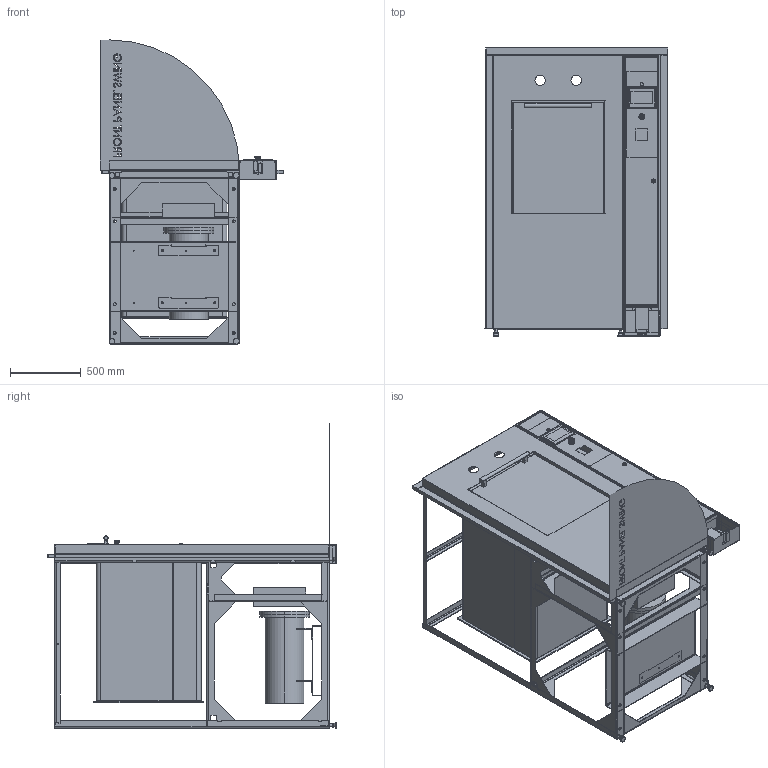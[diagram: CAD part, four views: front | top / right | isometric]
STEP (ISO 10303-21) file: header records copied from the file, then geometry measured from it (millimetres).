
FILE_DESCRIPTION (( 'STEP AP203' ), '1' );
FILE_NAME ('26AV-HC - REC - RIGHT CONTROLS.STEP', '2026-02-10T18:44:05', ( '' ), ( '' ), 'SwSTEP 2.0', 'SolidWorks 2024', '' );
FILE_SCHEMA (( 'CONFIG_CONTROL_DESIGN' ));
Length unit declared in the file: inch
Products named in the file (77): REVIT - FOOT, POLYMOUNT .75-10 1.58_Config1; REVIT - REVIT - X1 CONTROL COLUMN END_Config1; REVIT - PROGEN FACE PLATE; REVIT - NUT, COUPLING, .75-10, UNCOATED_90264A243; REVIT - Southco-E5-6-005-UU1_Sealing-Washer_clf; Door Swing_Right Controls; TOP TRIM_dont use; REVIT - 26 SQ VERTICAL FRAME - TOP - CROSSMEMBER; REVIT - REVIT - X1 CONTROL COLUMN RIVET PLATE_Config1; REVIT - REVIT - X1 Control Column Door_-01, 70" LEFT HINGE; REVIT - Southco-E5-6-005-UU1_E5_Housing_clf; RIVET - RIVET - Foot Pedal Enclosure_High; REVIT - 26 SQ VERTICAL FRAME - FRONT UPRIGHT_-01, Left; 91146 - PROGEN WATER BAFFLE; REVIT - PROGEN RING FLANGE; RIVET - Foot Pedal_Config1; REVIT - xb5as86449b4; REVIT - VERTICAL DOOR HANDLE_3743N115; REVIT - GS2107-WTBD_Av2_Config1; REVIT - PROGEN CHAMBER & PANEL ASSM_Right Hinge; REVIT - 26 SQ VERTICAL DOOR - WELDMENT_Welded Assem; REVIT - REVIT - X1 CONTROL COLUMN BACK_-01, 70" LEFT HINGE; REVIT - Southco-E5-6-005-UU1_O-Ring_clf; REVIT - 26 SQ VERTICAL FRAME - TOP_-02, 26AV Right; REVIT - 26 SQ VERTICAL FRAME - FRONT UPRIGHT_-02, RIGHT; REVIT - 26 SQ VERTICAL FRAME - BACK UPRIGHT_Rear Upright; REVIT - 26V FRONT PANEL_-01, RIGHT HINGE; 26AV-HC - REC - RIGHT CONTROLS; REVIT - 26 SQ Vertical Door; REVIT - PROGEN FOOT_PLUMBING CLEARANCE FOR BIOSEAL; REVIT - 26 SQ VERT DOOR ENDRING - MACHINED; RIVET - RIVET - Foot Pedal Enclosure - Top_-01, 76" LEFT HINGE; REVIT - PROGEN ELECTRICAL PANEL; REVIT - 26 SQ VERTICAL FRAME - BOTTOM - CROSSMEMBER_back; REVIT - SR-26A JACKET - TOP_Config1; REVIT - 26 SQ VERTICAL FRAME - BOTTOM_-02, RIGHT; REVIT - 26 SQ VERTICAL FRAME - TOP_-01, 26AV Left; REVIT - PROGEN CHAMBER BLANK; REVIT - 26 x 26 BACKHEAD_92250-01 - S.S. SA-240-316L; Assem2^REVIT - 26 SQ VERTICAL DOOR KIT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
Assembly tree (90 placements, depth 5):
  26AV-HC - REC - RIGHT CONTROLS
    REVIT - 26 SQ VERTICAL FRAME_-01, 26AV
      REVIT - 26 SQ VERTICAL FRAME - FRONT UPRIGHT_-01, Left
      REVIT - 26 SQ VERTICAL FRAME - FRONT UPRIGHT_-02, RIGHT
      REVIT - 26 SQ VERTICAL FRAME - MIDDLE UPRIGHT  x2
      REVIT - 26 SQ VERTICAL FRAME - BACK UPRIGHT_Rear Upright  x2
      REVIT - 26 SQ VERTICAL FRAME - BOTTOM_-01, LEFT
      REVIT - 26 SQ VERTICAL FRAME - BOTTOM_-02, RIGHT
      REVIT - 26 SQ VERTICAL FRAME - BOTTOM - CROSSMEMBER
      REVIT - 26 SQ VERTICAL FRAME - BOTTOM - CROSSMEMBER_back
      REVIT - 26 SQ VERTICAL FRAME - MIDDLE_-01 - 26AV LEFT
      REVIT - 26 SQ VERTICAL FRAME - MIDDLE_-02 - 26AV Right
      REVIT - 26 SQ VERTICAL FRAME - MIDDLE - FRONT CROSSMEMBER_Middle Frame Support
      REVIT - 26 SQ VERTICAL FRAME - MIDDLE - REAR CROSSMEMBER
      REVIT - 26 SQ VERTICAL FRAME - TOP_-01, 26AV Left
      REVIT - 26 SQ VERTICAL FRAME - TOP_-02, 26AV Right
      REVIT - 26 SQ VERTICAL FRAME - TOP - CROSSMEMBER  x2
      REVIT - 26 SQ VERTICAL FRAME - AIR COMPRESSOR SUPPORT
      REVIT - 26 SQ VERTICAL FRAME - GENERATOR SUPPORT_Config1
      REVIT - NUT, COUPLING, .75-10, UNCOATED_90264A243  x4
      REVIT - 26 SQ VERTICAL FRAME - BOTTOM - MID-CROSSMEMBER_Config1
    REVIT - FOOT, POLYMOUNT .75-10 1.58_Config1  x4
    REVIT - 26AV CHAMBER WELDMENT_26AV
      REVIT - 26 SQ VERT DOOR ENDRING - MACHINED
        REVIT - 26 SQ VERT DOOR ENDRING - BLANK_Waterjet Cut
      REVIT - 26 x 26 BACKHEAD_92250-01 - S.S. SA-240-316L
      REVIT - SR-26A CHAMBER - TOP_316L SS
      REVIT - SR-26A CHAMBER - BOTTOM_CHAMBER DIMPLING FEATURE FOR VESSEL ASSEMBLY
      REVIT - SR-26A JACKET - TOP_Config1
      REVIT - SR-26A JACKET - BOTTOM_Config1
    REVIT - 26 SQ VERTICAL DOOR KIT
      REVIT - 26 SQ VERT DOOR ENDRING - MACHINED
        REVIT - 26 SQ VERT DOOR ENDRING - BLANK_Waterjet Cut
      REVIT - 26 SQ VERTICAL DOOR - WELDMENT_Welded Assem
        REVIT - 26 SQ Vertical Door
          REVIT - 26 SQ VERTICAL DOOR - BLANK_FEA
        REVIT - 26 SQ VERTICAL DOOR - ANGLE
      Assem2^REVIT - 26 SQ VERTICAL DOOR KIT
        REVIT - 26 SQ VERTICAL DOOR - COVER
        REVIT - VERTICAL DOOR HANDLE_3743N115
    REVIT - 26V FRONT PANEL_-01, RIGHT HINGE
    REVIT - REVIT - X1 CONTROL COLUMN ASSEMBLY_-01, 70 left Closed
      REVIT - REVIT - X1 CONTROL COLUMN BOX_70 Left CLosed
        REVIT - REVIT - X1 CONTROL COLUMN BACK_-01, 70" LEFT HINGE
        REVIT - REVIT - X1 Control Column Door_-01, 70" LEFT HINGE
        REVIT - REVIT - X1 CONTROL COLUMN RIVET PLATE_Config1  x2
        REVIT - REVIT - X1 CONTROL COLUMN END_Config1  x2
      REVIT - Control Column Overlay_-01
      REVIT - GS2107-WTBD_Av2_Config1
      REVIT - xb5as86449b4
      REVIT - REVIT - Southco-E5-6-005-UU1
        REVIT - Southco-E5-6-005-UU1_E5_Phillips_Slot_Hex_Screw_clf
        REVIT - Southco-E5-6-005-UU1_Driver-(Slotted)_clf
        REVIT - Southco-E5-6-005-UU1_spring(compressed)_clf
        REVIT - Southco-E5-6-005-UU1_Sealing-Washer_clf
        REVIT - Southco-E5-6-005-UU1_O-Ring_clf
        REVIT - Southco-E5-6-005-UU1_Nut_clf
        REVIT - Southco-E5-6-005-UU1_E5_Housing_clf
    RIVET - RIVET - Foot Pedal Enclosure_High
      RIVET - RIVET - Foot Pedal Enclosure - Top
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Bounding box: 1292.3 x 2032 x 2143.66 mm (x, y, z)
Volume: 100049378.5 mm3; surface area: 35447173.4 mm2
Topology: 80 solids, 80 shells, 5653 faces, 15269 edges, 9840 vertices
Faces by surface type: plane 3543, cylinder 1592, bspline 287, cone 125, torus 97, sphere 9
Entity records: 204909 total; most frequent: CARTESIAN_POINT 76054, ORIENTED_EDGE 26728, DIRECTION 22228, EDGE_CURVE 13364, LINE 9310, VECTOR 9310, VERTEX_POINT 8625, AXIS2_PLACEMENT_3D 6459
